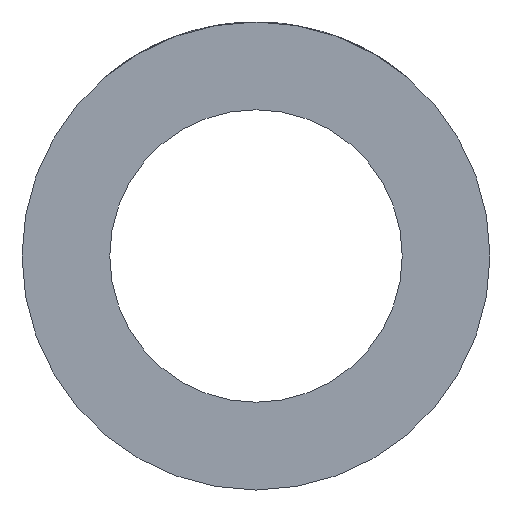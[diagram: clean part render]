
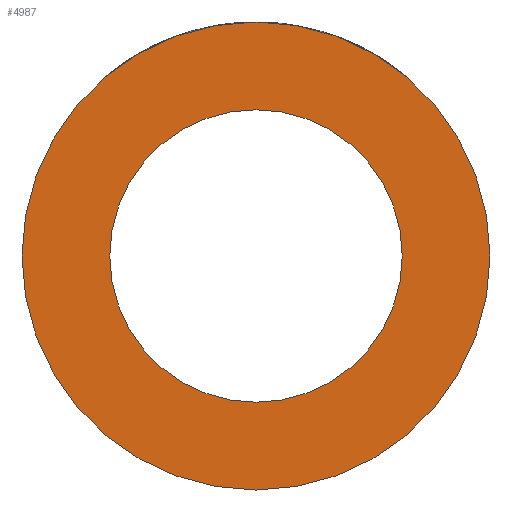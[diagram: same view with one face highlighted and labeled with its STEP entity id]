
A CAD part, left-side view. The second image highlights one B-rep face of the part: STEP entity #4987.
In plain terms, the highlighted planar face has unit normal (-1, 0, 0).
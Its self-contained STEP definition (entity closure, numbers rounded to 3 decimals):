
#113=PLANE('',#5375);
#342=CIRCLE('',#5374,16.);
#343=CIRCLE('',#5376,10.);
#845=ORIENTED_EDGE('',*,*,#2347,.T.);
#846=ORIENTED_EDGE('',*,*,#2346,.F.);
#2346=EDGE_CURVE('',#3097,#3097,#342,.T.);
#2347=EDGE_CURVE('',#3098,#3098,#343,.T.);
#3097=VERTEX_POINT('',#7941);
#3098=VERTEX_POINT('',#7944);
#4243=EDGE_LOOP('',(#845));
#4244=EDGE_LOOP('',(#846));
#4609=FACE_BOUND('',#4243,.T.);
#4610=FACE_BOUND('',#4244,.T.);
#4987=ADVANCED_FACE('',(#4609,#4610),#113,.F.);
#5374=AXIS2_PLACEMENT_3D('',#7940,#5890,#5891);
#5375=AXIS2_PLACEMENT_3D('',#7942,#5892,#5893);
#5376=AXIS2_PLACEMENT_3D('',#7943,#5894,#5895);
#5890=DIRECTION('',(1.,0.,0.));
#5891=DIRECTION('',(0.,0.,-1.));
#5892=DIRECTION('',(1.,0.,0.));
#5893=DIRECTION('',(0.,0.,-1.));
#5894=DIRECTION('',(1.,0.,0.));
#5895=DIRECTION('',(0.,0.,-1.));
#7940=CARTESIAN_POINT('',(-40.,0.,0.));
#7941=CARTESIAN_POINT('',(-40.,0.,-16.));
#7942=CARTESIAN_POINT('',(-40.,0.,0.));
#7943=CARTESIAN_POINT('',(-40.,0.,0.));
#7944=CARTESIAN_POINT('',(-40.,0.,-10.));
